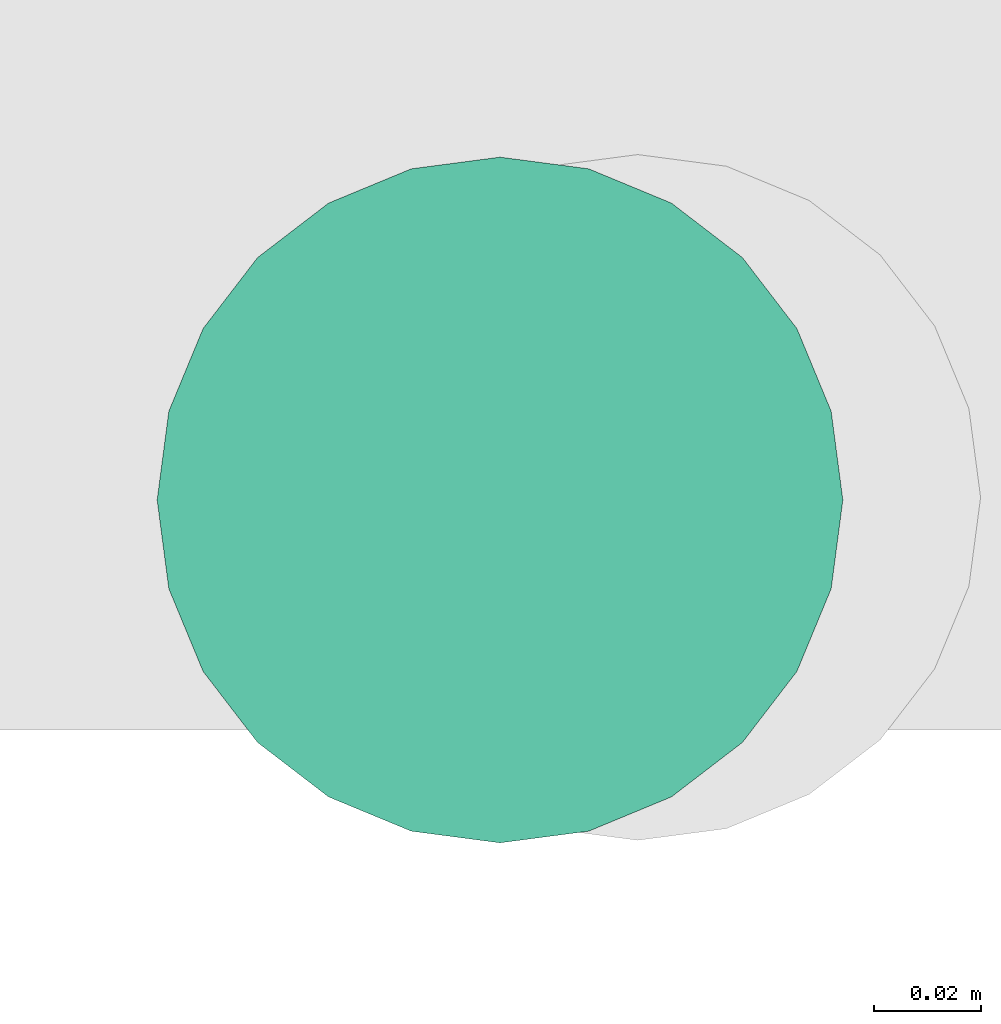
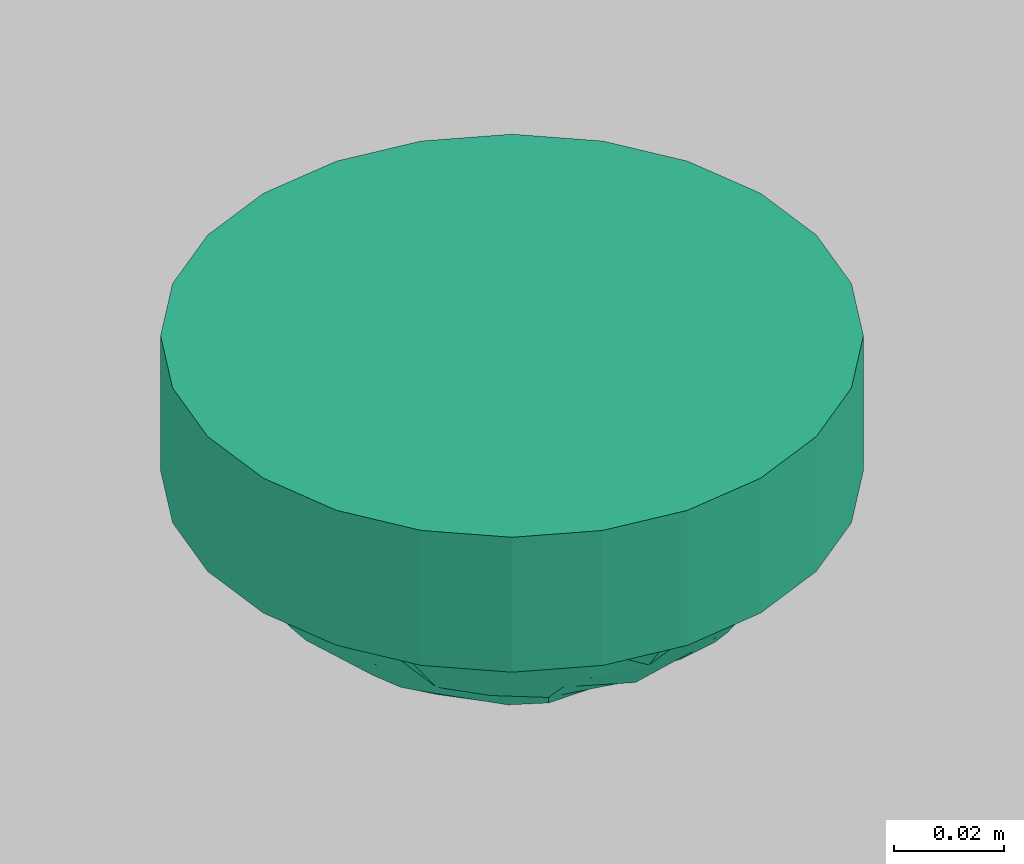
# One storey, part 63 of 153: 1 flow terminal.
"""IFC2X3 building model written with IfcOpenShell, lengths in metres."""

from ifc_helpers import new_model, entity, si_unit, converted_unit, derived_unit, direction, frame, origin, place, context, subcontext, project, spatial, faceted_brep, source, transform, mapped, type_object, type_shapes, element, save


model = new_model("IFC2X3")

# Units and contexts
model_context = context("Model", 3, precision=1e-05, world=origin(), true_north=direction((6.12303176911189e-17, 1.0)))
body_context = subcontext(model_context, "Body", "Model", "MODEL_VIEW")
ifc_project = project(units=[si_unit("LENGTHUNIT", "METRE"), si_unit("AREAUNIT", "SQUARE_METRE"), si_unit("VOLUMEUNIT", "CUBIC_METRE"), converted_unit("PLANEANGLEUNIT", "DEGREE", entity("IfcRatioMeasure", 0.0174532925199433), si_unit("PLANEANGLEUNIT", "RADIAN"), dimensions=[0, 0, 0, 0, 0, 0, 0]), si_unit("MASSUNIT", "GRAM", prefix="KILO"), derived_unit("MASSDENSITYUNIT", [(si_unit("MASSUNIT", "GRAM", prefix="KILO"), 1), (si_unit("LENGTHUNIT", "METRE"), -3)]), si_unit("TIMEUNIT", "SECOND"), si_unit("FREQUENCYUNIT", "HERTZ"), si_unit("THERMODYNAMICTEMPERATUREUNIT", "DEGREE_CELSIUS"), derived_unit("THERMALTRANSMITTANCEUNIT", [(si_unit("MASSUNIT", "GRAM", prefix="KILO"), 1), (si_unit("THERMODYNAMICTEMPERATUREUNIT", "KELVIN"), -1), (si_unit("TIMEUNIT", "SECOND"), -3)]), derived_unit("VOLUMETRICFLOWRATEUNIT", [(si_unit("LENGTHUNIT", "METRE"), 3), (si_unit("TIMEUNIT", "SECOND"), -1)]), si_unit("ELECTRICCURRENTUNIT", "AMPERE"), si_unit("ELECTRICVOLTAGEUNIT", "VOLT"), si_unit("POWERUNIT", "WATT"), si_unit("FORCEUNIT", "NEWTON"), si_unit("ILLUMINANCEUNIT", "LUX"), si_unit("LUMINOUSFLUXUNIT", "LUMEN"), si_unit("LUMINOUSINTENSITYUNIT", "CANDELA"), derived_unit("USERDEFINED", [(si_unit("MASSUNIT", "GRAM", prefix="KILO"), -1), (si_unit("LENGTHUNIT", "METRE"), -2), (si_unit("TIMEUNIT", "SECOND"), 3), (si_unit("LUMINOUSFLUXUNIT", "LUMEN"), 1)]), derived_unit("LINEARVELOCITYUNIT", [(si_unit("LENGTHUNIT", "METRE"), 1), (si_unit("TIMEUNIT", "SECOND"), -1)]), si_unit("PRESSUREUNIT", "PASCAL"), derived_unit("USERDEFINED", [(si_unit("LENGTHUNIT", "METRE"), -2), (si_unit("MASSUNIT", "GRAM", prefix="KILO"), 1), (si_unit("TIMEUNIT", "SECOND"), -2)])], contexts=[model_context])

# Site, building, storey
site_placement = place(None, origin())
site = spatial("IfcSite", under=ifc_project, at=site_placement, Name="Default", CompositionType="ELEMENT")
building_placement = place(site_placement, origin())
building = spatial("IfcBuilding", under=site, at=building_placement, CompositionType="ELEMENT")
storey_placement = place(building_placement, frame((0.0, 0.0, -4.62)))
storey = spatial("IfcBuildingStorey", under=building, at=storey_placement, Name="S02", CompositionType="ELEMENT", Elevation=-4.62)

# Flow terminal
light_fixture_type = type_object("IfcLightFixtureType", Name="Détecteur 360°", PredefinedType="NOTDEFINED")
shared_shape = source(origin(), body_context, "Body", "Brep", [
    faceted_brep([(-0.0175153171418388, 0.0435914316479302, 0.0478512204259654), (0.0, 0.034524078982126, 0.0563702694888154), (0.0, 0.0397165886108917, 0.0531256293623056), (0.0, -0.00603476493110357, 0.0659648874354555), (0.0, 0.0, 0.0669999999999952), (-0.0194029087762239, 0.000878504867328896, 0.0644483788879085), (-0.0269980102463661, 0.0195753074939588, 0.0584711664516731), (-0.0366619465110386, 0.0127227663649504, 0.0549213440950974), (-0.0174057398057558, 0.0159851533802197, 0.0630502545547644), (-0.0276843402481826, 0.0401006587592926, 0.0459804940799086), (-0.0359767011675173, 0.0348394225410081, 0.0444249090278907), (-0.0202403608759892, 0.0335607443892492, 0.054639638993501), (-0.0256912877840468, 0.0533485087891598, 0.0299999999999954), (-0.0172617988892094, 0.0486391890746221, 0.042533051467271), (-0.0133088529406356, 0.0517577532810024, 0.0400582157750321), (-0.0462941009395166, 0.0369183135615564, 0.0299999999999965), (-0.0186245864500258, 0.0267295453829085, 0.0589100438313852), (0.0, 0.0241390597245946, 0.0628595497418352), (-0.0139070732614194, 0.0374370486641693, 0.0540817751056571), (0.0, -0.0397165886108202, 0.0531256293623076), (-0.0172618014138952, -0.0486391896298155, 0.0425330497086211), (0.0, -0.0449090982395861, 0.049880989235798), (-0.0353547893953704, -0.0284533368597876, 0.0494330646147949), (-0.0202403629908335, -0.0335607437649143, 0.054639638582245), (-0.0186245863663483, -0.0267295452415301, 0.0589100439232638), (-0.0191783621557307, -0.0150189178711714, 0.0627751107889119), (-0.0249385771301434, -0.0204731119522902, 0.0590841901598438), (0.0, -0.0120695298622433, 0.0649297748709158), (-0.0453471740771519, 0.0286501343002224, 0.0397747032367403), (-0.052010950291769, 0.0250471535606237, 0.029999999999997), (-0.0465404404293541, 0.0196510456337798, 0.0438984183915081), (-0.0365036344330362, 0.0226255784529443, 0.0516441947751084), (-0.0276843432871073, -0.0401006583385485, 0.0459804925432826), (-0.0359926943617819, -0.0451334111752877, 0.0299999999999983), (-0.0175153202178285, -0.0435914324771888, 0.0478512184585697), (0.0, 0.049890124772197, 0.0429575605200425), (0.0, 0.0545512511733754, 0.0364787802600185), (0.0, 0.0592123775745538, 0.0299999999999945), (-0.00849704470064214, 0.0572729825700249, 0.0299999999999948), (-0.0169940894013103, 0.055333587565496, 0.0299999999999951), (-0.035976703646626, -0.0348394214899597, 0.0444249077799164), (-0.0308419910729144, -0.0492409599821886, 0.0299999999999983), (-0.025691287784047, -0.0533485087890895, 0.0299999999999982), (-0.0130265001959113, -0.0514867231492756, 0.040526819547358), (0.0, -0.0498901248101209, 0.0429575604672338), (-0.0169940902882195, -0.0553335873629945, 0.029999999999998), (-0.0353547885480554, 0.0284533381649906, 0.0494330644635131), (0.0, -0.0181042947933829, 0.0638946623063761), (-0.036659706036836, 0.00328672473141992, 0.0563153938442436), (-0.0485435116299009, 0.009089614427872, 0.0452357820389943), (-0.0473669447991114, 0.00128092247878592, 0.0474310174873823), (0.0, 0.00603476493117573, 0.0659648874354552), (-0.0226425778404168, 0.0107553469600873, 0.0624973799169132), (-0.0139070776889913, -0.0374370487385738, 0.0540817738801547), (0.0, -0.0293315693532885, 0.0596149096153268), (-0.0453471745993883, -0.0286501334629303, 0.0397747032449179), (-0.0449600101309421, -0.018422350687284, 0.0461366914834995), (-0.0577277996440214, -0.0131759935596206, 0.0299999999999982), (-0.0476906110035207, -0.00670602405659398, 0.0466053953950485), (0.0, 0.0449090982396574, 0.0498809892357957), (-0.0308419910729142, 0.049240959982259, 0.0299999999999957), (-0.0359926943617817, 0.0451334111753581, 0.029999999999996), (0.0, -0.0345240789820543, 0.0563702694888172), (-0.0462941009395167, -0.0369183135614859, 0.0299999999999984), (-0.0411433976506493, -0.0410258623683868, 0.0299999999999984), (-0.0491525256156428, 0.03098273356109, 0.0299999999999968), (-0.0577277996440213, 0.0131759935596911, 0.0299999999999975), (0.0, 0.018104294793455, 0.0638946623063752), (-0.0377433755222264, -0.00448382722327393, 0.0554913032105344), (-0.0577277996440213, 0.00658799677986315, 0.0299999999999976), (-0.0577277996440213, -0.00658799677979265, 0.029999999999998), (-0.0577277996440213, 0.0, 0.0299999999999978), (-0.0385149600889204, -0.012484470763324, 0.0536578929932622), (-0.0491525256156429, -0.0309827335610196, 0.0299999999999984), (-0.0548693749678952, -0.0191115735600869, 0.0299999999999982), (0.0, -0.0241390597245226, 0.0628595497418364), (-0.0146256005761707, -0.0100436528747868, 0.0649170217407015), (-0.0271766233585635, -0.00920278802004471, 0.0609170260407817), (0.0, 0.0120695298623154, 0.0649297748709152), (-0.0520109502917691, -0.0250471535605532, 0.0299999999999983), (-0.0411433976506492, 0.0410258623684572, 0.0299999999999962), (-0.0548693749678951, 0.0191115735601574, 0.0299999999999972), (0.0, 0.0293315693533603, 0.0596149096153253), (-0.0127455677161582, -0.0563032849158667, 0.0299999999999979), (-0.00849704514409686, -0.057272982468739, 0.0299999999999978), (0.0, -0.0592123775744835, 0.0299999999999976), (0.0, -0.0545512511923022, 0.0364787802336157), (-0.0213426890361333, -0.054341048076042, 0.0299999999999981), (0.0175153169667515, -0.0435914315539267, 0.0478512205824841), (0.0194029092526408, -0.000878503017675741, 0.0644483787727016), (0.0269980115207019, -0.0195753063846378, 0.0584711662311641), (0.0366619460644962, -0.012722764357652, 0.0549213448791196), (0.0174057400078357, -0.0159851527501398, 0.0630502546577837), (0.0276843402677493, -0.0401006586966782, 0.0459804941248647), (0.0359767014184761, -0.0348394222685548, 0.0444249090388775), (0.0202403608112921, -0.0335607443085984, 0.0546396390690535), (0.0256912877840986, -0.0533485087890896, 0.0299999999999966), (0.0172617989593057, -0.0486391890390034, 0.0425330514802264), (0.0133088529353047, -0.0517577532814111, 0.0400582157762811), (0.0462941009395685, -0.0369183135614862, 0.0299999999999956), (0.00849704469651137, -0.0572729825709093, 0.0299999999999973), (0.0169940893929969, -0.0553335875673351, 0.029999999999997), (0.0308419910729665, 0.0492409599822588, 0.0299999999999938), (0.025691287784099, 0.0533485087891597, 0.0299999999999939), (0.0172617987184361, 0.0486391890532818, 0.0425330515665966), (0.0175153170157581, 0.0435914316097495, 0.0478512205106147), (0.0353547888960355, 0.0284533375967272, 0.0494330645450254), (0.0202403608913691, 0.03356074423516, 0.0546396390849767), (0.0186245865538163, 0.0267295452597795, 0.0589100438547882), (0.0191783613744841, 0.0150189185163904, 0.0627751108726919), (0.0249385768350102, 0.0204731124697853, 0.0590841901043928), (0.0520109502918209, -0.0250471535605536, 0.0299999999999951), (0.0548693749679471, -0.0191115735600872, 0.0299999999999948), (0.0577277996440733, -0.0131759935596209, 0.0299999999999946), (0.0465404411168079, -0.0196510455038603, 0.0438984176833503), (0.018624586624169, -0.0267295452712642, 0.0589100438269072), (0.0365036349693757, -0.0226255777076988, 0.0516441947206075), (0.0276843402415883, 0.0401006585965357, 0.0459804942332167), (0.0359926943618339, 0.0451334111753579, 0.0299999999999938), (0.0139070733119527, -0.0374370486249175, 0.0540817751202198), (0.0359767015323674, 0.0348394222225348, 0.044424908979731), (0.0226425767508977, -0.0107553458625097, 0.0624973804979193), (0.0130264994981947, 0.0514867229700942, 0.0405268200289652), (0.0169940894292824, 0.0553335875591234, 0.0299999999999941), (0.0353547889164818, -0.0284533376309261, 0.0494330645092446), (0.0453471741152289, -0.0286501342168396, 0.039774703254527), (0.0366597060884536, -0.00328672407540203, 0.0563153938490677), (0.0485435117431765, -0.00908961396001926, 0.0452357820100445), (0.0473669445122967, -0.00128092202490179, 0.0474310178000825), (0.0139070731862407, 0.0374370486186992, 0.0540817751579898), (0.0453471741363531, 0.0286501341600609, 0.039774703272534), (0.0449600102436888, 0.018422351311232, 0.0461366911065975), (0.0577277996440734, 0.0131759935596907, 0.0299999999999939), (0.0476906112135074, 0.00670602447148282, 0.0466053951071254), (0.0308419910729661, -0.0492409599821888, 0.0299999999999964), (0.0359926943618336, -0.0451334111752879, 0.0299999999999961), (0.0462941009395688, 0.0369183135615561, 0.0299999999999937), (0.0411433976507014, 0.041025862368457, 0.0299999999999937), (0.0491525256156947, -0.0309827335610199, 0.0299999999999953), (0.0377433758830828, 0.00448382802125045, 0.0554913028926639), (0.0577277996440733, -0.00658799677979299, 0.0299999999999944), (0.0577277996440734, 0.00658799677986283, 0.0299999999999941), (0.0577277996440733, 0.0, 0.0299999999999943), (0.0385149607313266, 0.0124844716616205, 0.0536578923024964), (0.049152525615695, 0.0309827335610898, 0.0299999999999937), (0.0548693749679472, 0.0191115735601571, 0.0299999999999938), (0.0146256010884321, 0.0100436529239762, 0.0649170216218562), (0.0271766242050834, 0.00920278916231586, 0.0609170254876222), (0.0520109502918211, 0.0250471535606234, 0.0299999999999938), (0.041143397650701, -0.0410258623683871, 0.0299999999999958), (0.0127455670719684, 0.056303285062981, 0.0299999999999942), (0.0084970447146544, 0.0572729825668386, 0.0299999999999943), (0.0213426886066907, 0.0543410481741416, 0.029999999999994), (0.0, 0.0, 0.0299999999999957)], [[[0, 1, 2]], [[3, 4, 5]], [[6, 7, 8]], [[9, 10, 11]], [[12, 13, 14]], [[9, 15, 10]], [[16, 17, 11]], [[9, 11, 18]], [[19, 20, 21]], [[22, 23, 24]], [[25, 26, 27]], [[28, 29, 30]], [[16, 31, 6]], [[32, 33, 34]], [[35, 36, 37, 38, 39]], [[22, 40, 23]], [[41, 42, 20]], [[20, 43, 21]], [[44, 43, 45]], [[19, 34, 20]], [[46, 10, 28]], [[47, 26, 24]], [[48, 49, 50]], [[51, 52, 5]], [[23, 53, 54]], [[55, 22, 56]], [[57, 56, 58]], [[2, 59, 13]], [[0, 2, 13]], [[13, 60, 0]], [[1, 0, 18]], [[61, 9, 0]], [[19, 62, 34]], [[33, 41, 34]], [[63, 64, 33, 32]], [[34, 41, 20]], [[32, 34, 53]], [[31, 28, 30]], [[15, 65, 10]], [[30, 66, 49]], [[67, 16, 6]], [[52, 8, 7]], [[7, 31, 30]], [[68, 50, 58]], [[48, 50, 68]], [[49, 69, 50]], [[70, 57, 58, 71]], [[52, 48, 5]], [[22, 26, 56]], [[68, 58, 72]], [[72, 56, 26]], [[73, 40, 55]], [[56, 74, 55]], [[24, 75, 47]], [[5, 4, 51]], [[49, 48, 7]], [[5, 76, 3]], [[77, 5, 68]], [[51, 78, 52]], [[47, 27, 26]], [[25, 27, 76]], [[75, 24, 23]], [[22, 24, 26]], [[53, 62, 54]], [[40, 32, 23]], [[32, 40, 63]], [[73, 63, 40]], [[79, 73, 55, 74]], [[26, 25, 72]], [[22, 55, 40]], [[54, 75, 23]], [[17, 16, 67]], [[67, 8, 78]], [[11, 10, 46]], [[16, 11, 46]], [[52, 7, 48]], [[65, 29, 28]], [[9, 61, 80, 15]], [[81, 66, 30, 29]], [[65, 28, 10]], [[31, 46, 28]], [[1, 18, 82]], [[11, 17, 82]], [[49, 7, 30]], [[35, 39, 14]], [[14, 13, 59]], [[83, 84, 85, 86, 44, 45]], [[20, 42, 43]], [[43, 42, 87, 45]], [[62, 53, 34]], [[32, 53, 23]], [[82, 18, 11]], [[9, 18, 0]], [[12, 14, 39]], [[14, 59, 35]], [[61, 0, 60]], [[13, 12, 60]], [[46, 31, 16]], [[6, 31, 7]], [[69, 71, 50]], [[49, 66, 69]], [[58, 50, 71]], [[48, 68, 5]], [[77, 68, 72]], [[25, 77, 72]], [[72, 58, 56]], [[56, 57, 74]], [[77, 25, 76]], [[77, 76, 5]], [[3, 76, 27]], [[6, 8, 67]], [[8, 52, 78]], [[21, 43, 44]], [[88, 62, 19]], [[51, 4, 89]], [[90, 91, 92]], [[93, 94, 95]], [[96, 97, 98]], [[93, 99, 94]], [[44, 86, 85, 100, 101]], [[102, 103, 104]], [[2, 105, 104]], [[106, 107, 108]], [[109, 110, 78]], [[111, 112, 113, 114]], [[115, 116, 90]], [[117, 118, 105]], [[93, 95, 119]], [[106, 120, 107]], [[3, 121, 89]], [[35, 122, 123]], [[104, 122, 59]], [[115, 75, 95]], [[124, 94, 125]], [[67, 110, 108]], [[126, 127, 128]], [[2, 104, 59]], [[107, 129, 82]], [[130, 106, 131]], [[132, 131, 133]], [[19, 21, 97]], [[88, 19, 97]], [[97, 134, 88]], [[62, 88, 119]], [[135, 93, 88]], [[2, 1, 105]], [[118, 102, 105]], [[136, 137, 118, 117]], [[105, 102, 104]], [[117, 105, 129]], [[116, 125, 114]], [[99, 138, 94]], [[114, 113, 127]], [[47, 115, 90]], [[27, 92, 121]], [[91, 116, 114]], [[139, 128, 133]], [[126, 128, 139]], [[127, 140, 128]], [[141, 132, 133, 142]], [[121, 126, 89]], [[106, 110, 131]], [[139, 133, 143]], [[143, 131, 110]], [[144, 120, 130]], [[131, 145, 130]], [[108, 17, 67]], [[89, 4, 3]], [[127, 126, 91]], [[89, 146, 51]], [[147, 89, 139]], [[3, 27, 121]], [[67, 78, 110]], [[109, 78, 146]], [[17, 108, 107]], [[106, 108, 110]], [[129, 1, 82]], [[120, 117, 107]], [[117, 120, 136]], [[144, 136, 120]], [[148, 144, 130, 145]], [[110, 109, 143]], [[106, 130, 120]], [[82, 17, 107]], [[75, 115, 47]], [[47, 92, 27]], [[95, 94, 124]], [[115, 95, 124]], [[121, 91, 126]], [[138, 111, 125]], [[93, 135, 149, 99]], [[125, 111, 114]], [[138, 125, 94]], [[116, 124, 125]], [[62, 119, 54]], [[95, 75, 54]], [[127, 91, 114]], [[44, 101, 98]], [[98, 97, 21]], [[150, 151, 37, 36, 35, 123]], [[104, 103, 122]], [[122, 103, 152, 123]], [[1, 129, 105]], [[117, 129, 107]], [[54, 119, 95]], [[93, 119, 88]], [[96, 98, 101]], [[98, 21, 44]], [[135, 88, 134]], [[97, 96, 134]], [[124, 116, 115]], [[90, 116, 91]], [[140, 142, 128]], [[127, 113, 140]], [[133, 128, 142]], [[126, 139, 89]], [[147, 139, 143]], [[109, 147, 143]], [[143, 133, 131]], [[131, 132, 145]], [[147, 109, 146]], [[147, 146, 89]], [[51, 146, 78]], [[121, 92, 91]], [[90, 92, 47]], [[59, 122, 35]], [[153, 42, 41]], [[153, 41, 33]], [[153, 33, 64]], [[153, 64, 63]], [[153, 63, 73]], [[153, 73, 79]], [[153, 79, 74]], [[153, 74, 57]], [[153, 57, 70]], [[153, 87, 42]], [[153, 45, 87]], [[153, 83, 45]], [[153, 84, 83]], [[153, 85, 84]], [[153, 70, 71]], [[153, 71, 69]], [[153, 69, 66]], [[153, 66, 81]], [[153, 81, 29]], [[153, 29, 65]], [[153, 65, 15]], [[153, 15, 80]], [[153, 80, 61]], [[153, 61, 60]], [[153, 60, 12]], [[153, 12, 39]], [[153, 39, 38]], [[153, 38, 37]], [[153, 37, 151]], [[153, 100, 85]], [[153, 101, 100]], [[153, 96, 101]], [[153, 134, 96]], [[153, 135, 134]], [[153, 149, 135]], [[153, 99, 149]], [[153, 138, 99]], [[153, 111, 138]], [[153, 112, 111]], [[153, 113, 112]], [[153, 151, 150]], [[153, 150, 123]], [[153, 123, 152]], [[153, 152, 103]], [[153, 103, 102]], [[153, 102, 118]], [[153, 118, 137]], [[153, 137, 136]], [[153, 136, 144]], [[153, 144, 148]], [[153, 148, 145]], [[153, 145, 132]], [[153, 132, 141]], [[153, 141, 142]], [[153, 142, 140]], [[153, 140, 113]]]),
    faceted_brep([(0.0452548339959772, 0.0452548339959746, 0.0299999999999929), (0.0320000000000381, 0.0554256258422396, 0.0299999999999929), (0.0165644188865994, 0.0618192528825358, 0.029999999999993), (0.0, 0.0640000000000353, 0.0299999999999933), (-0.0165644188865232, 0.0618192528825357, 0.0299999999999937), (-0.0319999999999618, 0.0554256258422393, 0.0299999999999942), (-0.0452548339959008, 0.0452548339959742, 0.0299999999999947), (-0.0554256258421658, 0.0320000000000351, 0.0299999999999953), (-0.061819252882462, 0.0165644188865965, 0.0299999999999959), (-0.0639999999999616, 0.0, 0.0299999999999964), (-0.0618192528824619, -0.0165644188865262, 0.0299999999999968), (-0.0554256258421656, -0.0319999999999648, 0.0299999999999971), (-0.0452548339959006, -0.0452548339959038, 0.0299999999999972), (-0.0319999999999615, -0.0554256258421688, 0.0299999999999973), (-0.0165644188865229, -0.061819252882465, 0.0299999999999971), (0.0, -0.0639999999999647, 0.0299999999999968), (0.0165644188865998, -0.061819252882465, 0.0299999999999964), (0.0320000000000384, -0.0554256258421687, 0.0299999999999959), (0.0452548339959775, -0.0452548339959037, 0.0299999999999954), (0.0554256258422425, -0.0319999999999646, 0.0299999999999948), (0.0618192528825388, -0.016564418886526, 0.0299999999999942), (0.0640000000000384, 0.0, 0.0299999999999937), (0.0618192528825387, 0.016564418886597, 0.0299999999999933), (0.0554256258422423, 0.0320000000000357, 0.029999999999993), (0.0, -0.0639999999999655, 0.0), (-0.0165644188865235, -0.0618192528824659, 0.0), (-0.0319999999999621, -0.0554256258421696, 0.0), (-0.0452548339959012, -0.0452548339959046, 0.0), (-0.0554256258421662, -0.0319999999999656, 0.0), (-0.0618192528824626, -0.016564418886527, 0.0), (-0.0639999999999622, 0.0, 0.0), (-0.0618192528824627, 0.0165644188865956, 0.0), (-0.0554256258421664, 0.0320000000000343, 0.0), (-0.0452548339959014, 0.0452548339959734, 0.0), (-0.0319999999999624, 0.0554256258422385, 0.0), (-0.0165644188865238, 0.0618192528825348, 0.0), (0.0, 0.0640000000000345, 0.0), (0.0165644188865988, 0.061819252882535, 0.0), (0.0320000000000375, 0.0554256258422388, 0.0), (0.0452548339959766, 0.0452548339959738, 0.0), (0.0554256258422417, 0.0320000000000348, 0.0), (0.061819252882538, 0.0165644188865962, 0.0), (0.0640000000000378, 0.0, 0.0), (0.0618192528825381, -0.0165644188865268, 0.0), (0.0554256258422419, -0.0319999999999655, 0.0), (0.0452548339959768, -0.0452548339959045, 0.0), (0.0320000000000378, -0.0554256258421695, 0.0), (0.0165644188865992, -0.0618192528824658, 0.0)], [[[0, 1, 2, 3, 4, 5, 6, 7, 8, 9, 10, 11, 12, 13, 14, 15, 16, 17, 18, 19, 20, 21, 22, 23]], [[24, 25, 26, 27, 28, 29, 30, 31, 32, 33, 34, 35, 36, 37, 38, 39, 40, 41, 42, 43, 44, 45, 46, 47]], [[30, 9, 8, 31]], [[31, 8, 7, 32]], [[34, 33, 6, 5]], [[6, 33, 32, 7]], [[35, 34, 5, 4]], [[35, 4, 3, 36]], [[36, 3, 2, 37]], [[37, 2, 1, 38]], [[40, 39, 0, 23]], [[0, 39, 38, 1]], [[41, 40, 23, 22]], [[41, 22, 21, 42]], [[42, 21, 20, 43]], [[43, 20, 19, 44]], [[46, 45, 18, 17]], [[18, 45, 44, 19]], [[47, 46, 17, 16]], [[47, 16, 15, 24]], [[24, 15, 14, 25]], [[25, 14, 13, 26]], [[10, 9, 30, 29]], [[26, 13, 12, 27]], [[12, 11, 28, 27]], [[11, 10, 29, 28]]]),
])
type_shapes(light_fixture_type, [shared_shape])
flow_terminal_placement = place(storey_placement, frame((45.4897436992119, -194.498019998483, 12.129), z_axis=(0.0, 0.0, -1.0), x_axis=(1.0, 0.0, 0.0)))
element("IfcFlowTerminal", 1, at=flow_terminal_placement, inside=storey, type_object=light_fixture_type, Name="INT - Détecteur 360°:Détecteur 360°", ObjectType="INT - Détecteur 360°:Détecteur 360°", context=body_context, shape_type="MappedRepresentation", body=[
    mapped(shared_shape, transform((0.0, 0.0, 0.0), scale=1.0)),
])

save(model, "model.ifc")
